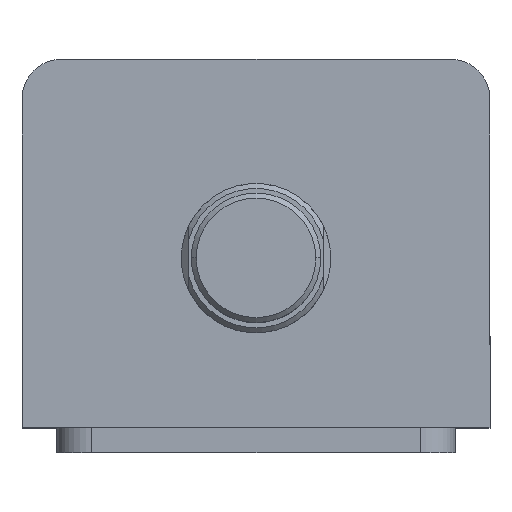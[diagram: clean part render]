
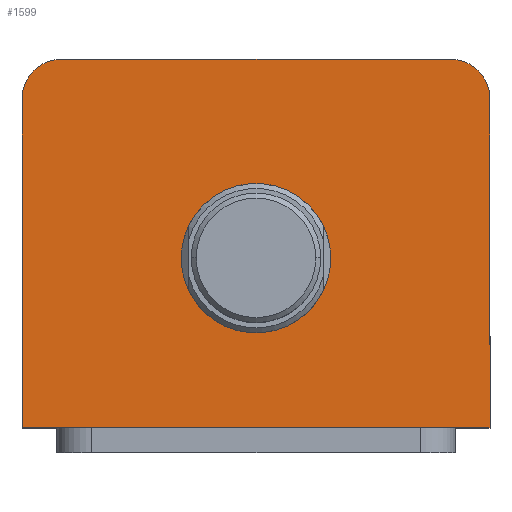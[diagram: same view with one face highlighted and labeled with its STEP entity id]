
A CAD part, top view. The second image highlights one B-rep face of the part: STEP entity #1599.
In plain terms, the highlighted planar face has unit normal (0, 0, 1).
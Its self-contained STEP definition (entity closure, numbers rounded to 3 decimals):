
#205 = CIRCLE ( 'NONE', #1169, 15. ) ;
#631 = CARTESIAN_POINT ( 'NONE',  ( 0., -3., 110. ) ) ;
#632 = DIRECTION ( 'NONE',  ( 0., 0., 1. ) ) ;
#633 = DIRECTION ( 'NONE',  ( 1., 0., 0. ) ) ;
#687 = CARTESIAN_POINT ( 'NONE',  ( -47., -37., 110. ) ) ;
#688 = CARTESIAN_POINT ( 'NONE',  ( -47., 29., 110. ) ) ;
#696 = CARTESIAN_POINT ( 'NONE',  ( -39., 37., 110. ) ) ;
#708 = CARTESIAN_POINT ( 'NONE',  ( 39., 37., 110. ) ) ;
#710 = CARTESIAN_POINT ( 'NONE',  ( 47., 29., 110. ) ) ;
#736 = CARTESIAN_POINT ( 'NONE',  ( 47., -37., 110. ) ) ;
#799 = CARTESIAN_POINT ( 'NONE',  ( -15., -3., 110. ) ) ;
#810 = CARTESIAN_POINT ( 'NONE',  ( 15., -3., 110. ) ) ;
#1031 = CARTESIAN_POINT ( 'NONE',  ( -47., -37., 110. ) ) ;
#1037 = DIRECTION ( 'NONE',  ( 0., 0., 1. ) ) ;
#1038 = CARTESIAN_POINT ( 'NONE',  ( 39., 29., 110. ) ) ;
#1049 = DIRECTION ( 'NONE',  ( 1., 0., 0. ) ) ;
#1052 = DIRECTION ( 'NONE',  ( -1., 0., 0. ) ) ;
#1056 = DIRECTION ( 'NONE',  ( 1., 0., 0. ) ) ;
#1066 = DIRECTION ( 'NONE',  ( 1., 0., 0. ) ) ;
#1067 = DIRECTION ( 'NONE',  ( 0., 0., 1. ) ) ;
#1069 = CARTESIAN_POINT ( 'NONE',  ( 0., -3., 110. ) ) ;
#1078 = CARTESIAN_POINT ( 'NONE',  ( -39., 29., 110. ) ) ;
#1081 = DIRECTION ( 'NONE',  ( 0., 0., 1. ) ) ;
#1112 = CARTESIAN_POINT ( 'NONE',  ( -47., 37., 110. ) ) ;
#1119 = DIRECTION ( 'NONE',  ( 0., -1., 0. ) ) ;
#1122 = CARTESIAN_POINT ( 'NONE',  ( -47., 37., 110. ) ) ;
#1130 = DIRECTION ( 'NONE',  ( 1., 0., 0. ) ) ;
#1169 = AXIS2_PLACEMENT_3D ( 'NONE', #631, #632, #633 ) ;
#1285 = EDGE_CURVE ( 'NONE', #1970, #1945, #2547, .T. ) ;
#1309 = EDGE_CURVE ( 'NONE', #1910, #1898, #2194, .T. ) ;
#1327 = AXIS2_PLACEMENT_3D ( 'NONE', #1038, #1037, #1056 ) ;
#1335 = AXIS2_PLACEMENT_3D ( 'NONE', #1078, #1081, #1130 ) ;
#1340 = AXIS2_PLACEMENT_3D ( 'NONE', #1069, #1067, #1066 ) ;
#1388 = AXIS2_PLACEMENT_3D ( 'NONE', #2465, #2451, #2449 ) ;
#1514 = EDGE_CURVE ( 'NONE', #1945, #1910, #2326, .T. ) ;
#1524 = EDGE_CURVE ( 'NONE', #1898, #1889, #2314, .T. ) ;
#1530 = EDGE_CURVE ( 'NONE', #1887, #1970, #2306, .T. ) ;
#1538 = EDGE_CURVE ( 'NONE', #1889, #1887, #2290, .T. ) ;
#1547 = EDGE_CURVE ( 'NONE', #2568, #2034, #2273, .T. ) ;
#1599 = ADVANCED_FACE ( 'NONE', ( #2937, #2930 ), #2470, .T. ) ;
#1767 = EDGE_CURVE ( 'NONE', #2034, #2568, #205, .T. ) ;
#1874 = ORIENTED_EDGE ( 'NONE', *, *, #1547, .F. ) ;
#1875 = ORIENTED_EDGE ( 'NONE', *, *, #1767, .F. ) ;
#1876 = ORIENTED_EDGE ( 'NONE', *, *, #1309, .T. ) ;
#1877 = ORIENTED_EDGE ( 'NONE', *, *, #1524, .T. ) ;
#1878 = ORIENTED_EDGE ( 'NONE', *, *, #1538, .T. ) ;
#1879 = ORIENTED_EDGE ( 'NONE', *, *, #1530, .T. ) ;
#1887 = VERTEX_POINT ( 'NONE', #687 ) ;
#1889 = VERTEX_POINT ( 'NONE', #688 ) ;
#1898 = VERTEX_POINT ( 'NONE', #696 ) ;
#1910 = VERTEX_POINT ( 'NONE', #708 ) ;
#1945 = VERTEX_POINT ( 'NONE', #710 ) ;
#1970 = VERTEX_POINT ( 'NONE', #736 ) ;
#2034 = VERTEX_POINT ( 'NONE', #799 ) ;
#2191 = VECTOR ( 'NONE', #1052, 1000. ) ;
#2194 = LINE ( 'NONE', #1112, #2191 ) ;
#2273 = CIRCLE ( 'NONE', #1340, 15. ) ;
#2287 = VECTOR ( 'NONE', #1119, 1000. ) ;
#2290 = LINE ( 'NONE', #1122, #2287 ) ;
#2303 = VECTOR ( 'NONE', #1049, 1000. ) ;
#2306 = LINE ( 'NONE', #1031, #2303 ) ;
#2314 = CIRCLE ( 'NONE', #1335, 8. ) ;
#2326 = CIRCLE ( 'NONE', #1327, 8. ) ;
#2449 = DIRECTION ( 'NONE',  ( 1., 0., 0. ) ) ;
#2451 = DIRECTION ( 'NONE',  ( 0., 0., 1. ) ) ;
#2465 = CARTESIAN_POINT ( 'NONE',  ( 0., 0., 110. ) ) ;
#2470 = PLANE ( 'NONE',  #1388 ) ;
#2544 = VECTOR ( 'NONE', #2950, 1000. ) ;
#2547 = LINE ( 'NONE', #2977, #2544 ) ;
#2568 = VERTEX_POINT ( 'NONE', #810 ) ;
#2740 = EDGE_LOOP ( 'NONE', ( #1874, #1875 ) ) ;
#2747 = EDGE_LOOP ( 'NONE', ( #1876, #1877, #1878, #1879, #3083, #3040 ) ) ;
#2930 = FACE_OUTER_BOUND ( 'NONE', #2747, .T. ) ;
#2937 = FACE_BOUND ( 'NONE', #2740, .T. ) ;
#2950 = DIRECTION ( 'NONE',  ( 0., 1., 0. ) ) ;
#2977 = CARTESIAN_POINT ( 'NONE',  ( 47., 37., 110. ) ) ;
#3040 = ORIENTED_EDGE ( 'NONE', *, *, #1514, .T. ) ;
#3083 = ORIENTED_EDGE ( 'NONE', *, *, #1285, .T. ) ;
